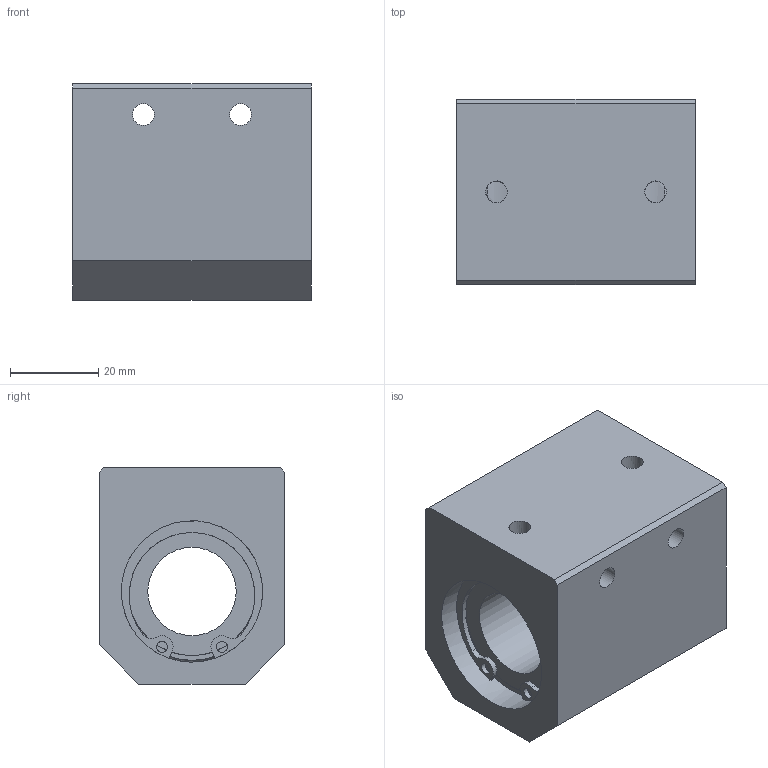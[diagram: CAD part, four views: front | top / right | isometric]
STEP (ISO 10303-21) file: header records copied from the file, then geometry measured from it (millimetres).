
FILE_DESCRIPTION((''),'2;1');
FILE_NAME('D:\製品 (図面)\カタログ用3D\リニアベアリング関連(改)\STEP形式\CH\CH20.stp','2010-01-25T09:34:32',('Tsuchiya'),(''),'Autodesk Inventor 10','Autodesk Inventor 10','');
FILE_SCHEMA(('AUTOMOTIVE_DESIGN { 1 0 10303 214 1 1 1 1 }'));
Length unit declared in the file: millimetre
Products named in the file (1): CH20
Bounding box: 54 x 42 x 49 mm (x, y, z)
Volume: 81030.2 mm3; surface area: 19844.1 mm2
Topology: 1 solids, 3 shells, 75 faces, 197 edges, 122 vertices
Faces by surface type: plane 33, bspline 22, cylinder 18, torus 2
Full cylindrical faces by diameter (mm): 2.5 x2, 20 x1, 29 x2, 30.3 x2, 32 x4
Entity records: 2424 total; most frequent: CARTESIAN_POINT 720, DIRECTION 356, ORIENTED_EDGE 316, EDGE_CURVE 158, AXIS2_PLACEMENT_3D 150, EDGE_LOOP 118, VERTEX_POINT 106, CIRCLE 96
